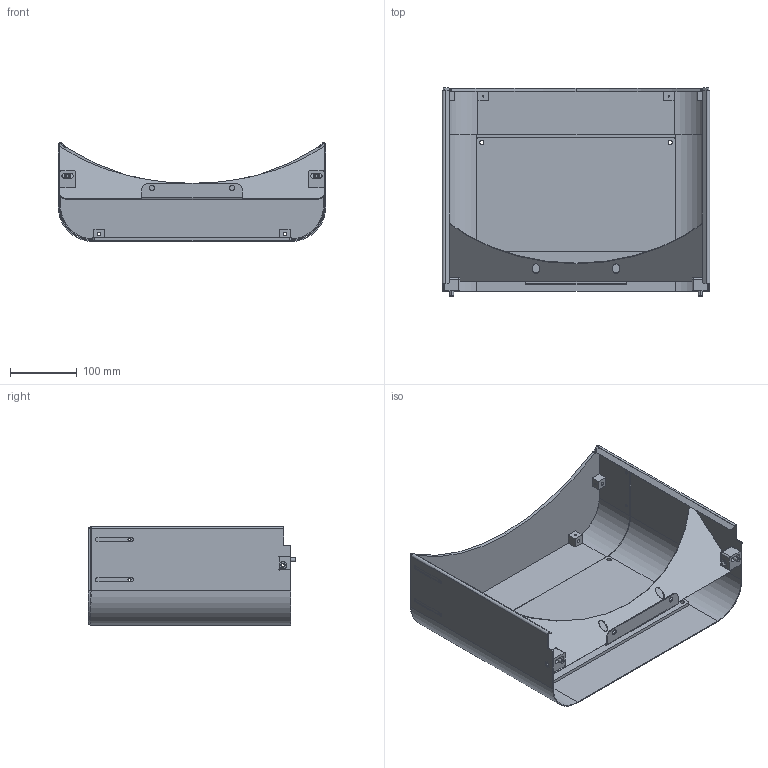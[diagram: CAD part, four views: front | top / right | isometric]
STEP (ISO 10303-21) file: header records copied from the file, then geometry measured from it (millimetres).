
FILE_DESCRIPTION (( 'STEP AP214' ), '1' );
FILE_NAME ('GM000637.STEP', '2021-08-24T13:16:07', ( '' ), ( '' ), 'SwSTEP 2.0', 'SolidWorks 2020', '' );
FILE_SCHEMA (( 'AUTOMOTIVE_DESIGN' ));
Length unit declared in the file: millimetre
Products named in the file (8): PD002606; PD001682; PD002607; PD002605; PD002604; GM000637; PD002597; CM000374
Assembly tree (11 placements, depth 2):
  GM000637
    PD002607
    PD002605
    CM000374  x2
    PD001682
    PD002597
    PD002606
    PD002604  x4
Bounding box: 400 x 310.86 x 147.83 mm (x, y, z)
Volume: 822982.1 mm3; surface area: 672719.7 mm2
Topology: 15 solids, 15 shells, 533 faces, 1297 edges, 782 vertices
Faces by surface type: cone 180, plane 162, cylinder 159, bspline 32
Entity records: 11884 total; most frequent: CARTESIAN_POINT 2373, DIRECTION 1954, ORIENTED_EDGE 1776, EDGE_CURVE 888, AXIS2_PLACEMENT_3D 739, VERTEX_POINT 544, LINE 476, VECTOR 476
